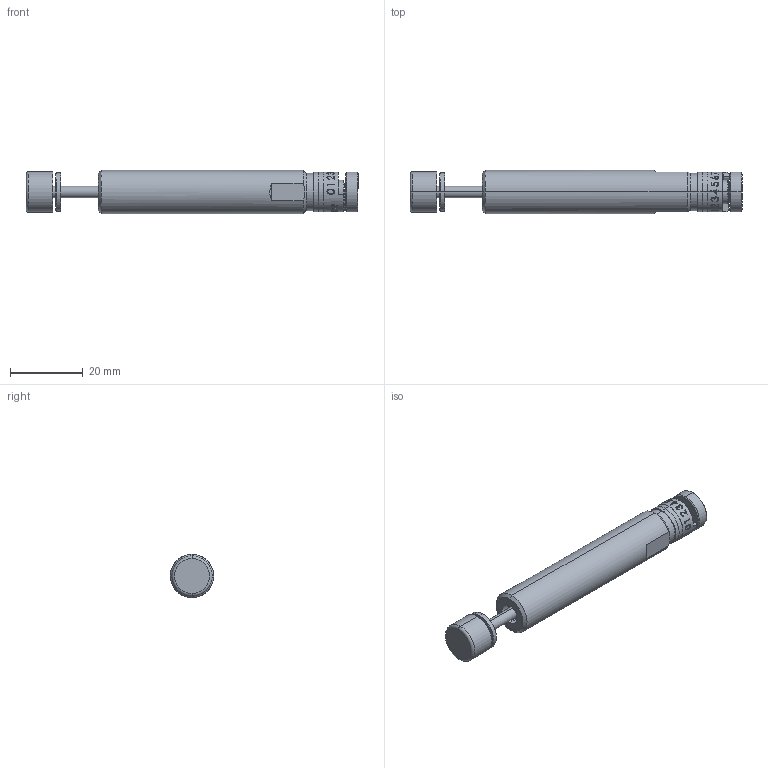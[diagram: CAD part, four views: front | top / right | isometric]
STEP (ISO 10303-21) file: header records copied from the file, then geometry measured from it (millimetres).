
FILE_DESCRIPTION (( 'STEP AP214' ), '1' );
FILE_NAME ('OEM .15 MB.STEP', '2010-06-14T20:55:25', ( ' ' ), ( '' ), 'SwSTEP 2.0', 'SolidWorks 2006233', '' );
FILE_SCHEMA (( 'AUTOMOTIVE_DESIGN' ));
Length unit declared in the file: inch
Products named in the file (1): OEM .15 MB
Bounding box: 91.03 x 11.88 x 11.88 mm (x, y, z)
Surface area: 4159.7 mm2 (no closed solid volume)
Topology: 0 solids, 15 shells, 251 faces, 736 edges, 495 vertices
Faces by surface type: plane 109, bspline 73, cylinder 40, cone 23, torus 6
Entity records: 15607 total; most frequent: CARTESIAN_POINT 6174, ORIENTED_EDGE 1293, DIRECTION 1096, EDGE_CURVE 736, VERTEX_POINT 495, AXIS2_PLACEMENT_3D 373, VECTOR 350, LINE 350
